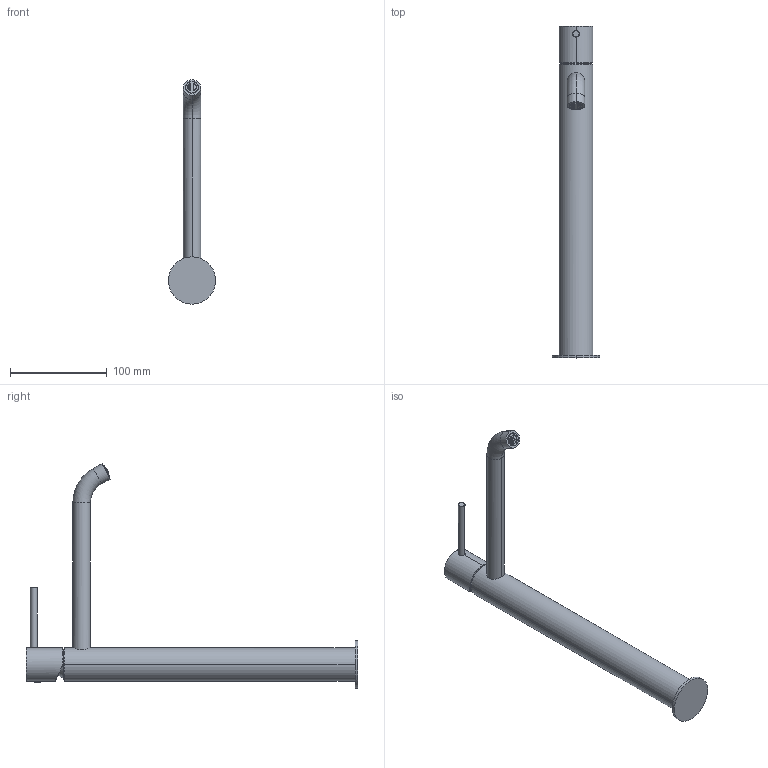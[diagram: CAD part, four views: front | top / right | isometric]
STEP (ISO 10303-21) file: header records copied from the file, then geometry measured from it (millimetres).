
FILE_DESCRIPTION((''),'2;1');
FILE_NAME('6946521_SW0001','2025-11-19T11:11:08',('carloff'),(''),'CREO PARAMETRIC BY PTC INC, 2022014','CREO PARAMETRIC BY PTC INC, 2022014','');
FILE_SCHEMA(('CONFIG_CONTROL_DESIGN'));
Length unit declared in the file: millimetre
Products named in the file (1): 6946521_SW0001
Bounding box: 48.8 x 342.3 x 231.35 mm (x, y, z)
Volume: 370315 mm3; surface area: 59424.6 mm2
Topology: 2 solids, 2 shells, 379 faces, 1107 edges, 745 vertices
Faces by surface type: plane 155, torus 152, cylinder 48, cone 12, sphere 8, bspline 4
Entity records: 14492 total; most frequent: CARTESIAN_POINT 4761, ORIENTED_EDGE 2202, DIRECTION 1883, EDGE_CURVE 1101, AXIS2_PLACEMENT_3D 792, VERTEX_POINT 745, CIRCLE 417, EDGE_LOOP 402
